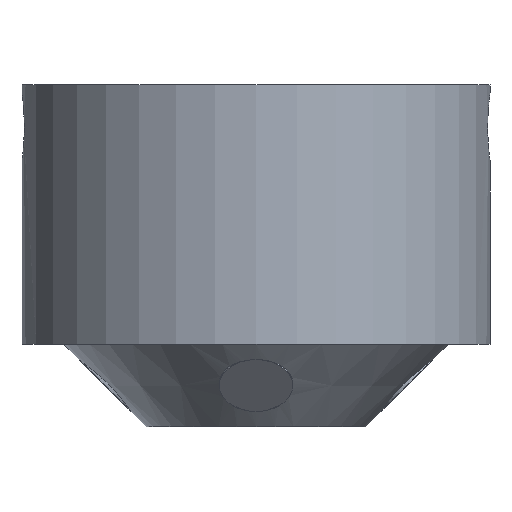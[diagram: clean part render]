
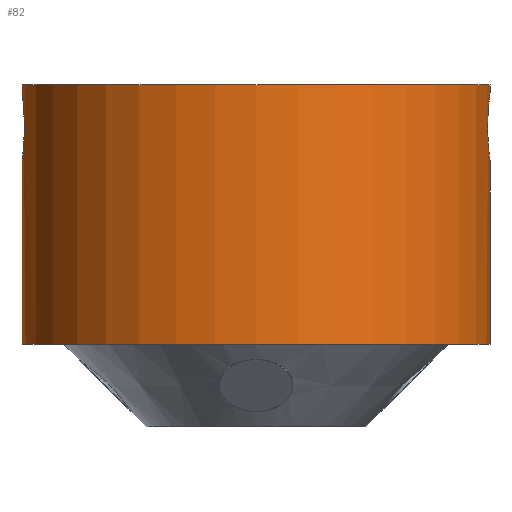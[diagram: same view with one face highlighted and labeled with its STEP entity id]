
A CAD part, front view. The second image highlights one B-rep face of the part: STEP entity #82.
In plain terms, the highlighted cylindrical face has radius 32.5 mm (diameter 65 mm), a partial arc.
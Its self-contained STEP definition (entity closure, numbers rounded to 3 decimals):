
#82 = ADVANCED_FACE( '', ( #154 ), #155, .T. );
#154 = FACE_OUTER_BOUND( '', #289, .T. );
#155 = CYLINDRICAL_SURFACE( '', #290, 32.5 );
#289 = EDGE_LOOP( '', ( #466, #467, #468, #469, #470, #471, #472, #473 ) );
#290 = AXIS2_PLACEMENT_3D( '', #474, #475, #476 );
#466 = ORIENTED_EDGE( '', *, *, #928, .F. );
#467 = ORIENTED_EDGE( '', *, *, #929, .T. );
#468 = ORIENTED_EDGE( '', *, *, #930, .F. );
#469 = ORIENTED_EDGE( '', *, *, #931, .T. );
#470 = ORIENTED_EDGE( '', *, *, #932, .F. );
#471 = ORIENTED_EDGE( '', *, *, #933, .F. );
#472 = ORIENTED_EDGE( '', *, *, #934, .F. );
#473 = ORIENTED_EDGE( '', *, *, #935, .T. );
#474 = CARTESIAN_POINT( '', ( 0., 0., 29.5 ) );
#475 = DIRECTION( '', ( 0., 0., 1. ) );
#476 = DIRECTION( '', ( 1., 0., 0. ) );
#928 = EDGE_CURVE( '', #1107, #1108, #1109, .T. );
#929 = EDGE_CURVE( '', #1107, #1110, #1111, .T. );
#930 = EDGE_CURVE( '', #1112, #1110, #1113, .T. );
#931 = EDGE_CURVE( '', #1112, #1114, #1115, .T. );
#932 = EDGE_CURVE( '', #1116, #1114, #1117, .T. );
#933 = EDGE_CURVE( '', #1118, #1116, #1119, .T. );
#934 = EDGE_CURVE( '', #1120, #1118, #1121, .T. );
#935 = EDGE_CURVE( '', #1120, #1108, #1122, .T. );
#1107 = VERTEX_POINT( '', #1625 );
#1108 = VERTEX_POINT( '', #1626 );
#1109 = LINE( '', #1627, #1628 );
#1110 = VERTEX_POINT( '', #1629 );
#1111 = CIRCLE( '', #1630, 32.5 );
#1112 = VERTEX_POINT( '', #1631 );
#1113 = LINE( '', #1632, #1633 );
#1114 = VERTEX_POINT( '', #1634 );
#1115 = B_SPLINE_CURVE_WITH_KNOTS( '', 3, ( #1635, #1636, #1637, #1638, #1639, #1640, #1641, #1642, #1643, #1644, #1645, #1646, #1647, #1648, #1649, #1650, #1651, #1652, #1653, #1654, #1655, #1656, #1657, #1658, #1659, #1660, #1661, #1662, #1663, #1664, #1665, #1666, #1667, #1668, #1669 ), .UNSPECIFIED., .F., .F., ( 4, 2, 2, 2, 2, 2, 2, 2, 3, 2, 2, 2, 2, 2, 2, 2, 4 ), ( 20.812, 21.686, 22.559, 23.433, 24.307, 25.168, 26.028, 26.888, 27.749, 28.609, 29.47, 30.33, 31.191, 32.065, 32.938, 33.812, 34.686 ), .UNSPECIFIED. );
#1116 = VERTEX_POINT( '', #1670 );
#1117 = LINE( '', #1671, #1672 );
#1118 = VERTEX_POINT( '', #1673 );
#1119 = CIRCLE( '', #1674, 32.5 );
#1120 = VERTEX_POINT( '', #1675 );
#1121 = LINE( '', #1676, #1677 );
#1122 = B_SPLINE_CURVE_WITH_KNOTS( '', 3, ( #1678, #1679, #1680, #1681, #1682, #1683, #1684, #1685, #1686, #1687, #1688, #1689, #1690, #1691, #1692, #1693, #1694, #1695, #1696, #1697, #1698, #1699, #1700, #1701, #1702, #1703, #1704, #1705, #1706, #1707, #1708, #1709, #1710, #1711 ), .UNSPECIFIED., .F., .F., ( 4, 2, 2, 2, 2, 2, 2, 2, 2, 2, 2, 2, 2, 2, 2, 2, 4 ), ( 6.937, 7.811, 8.685, 9.559, 10.433, 11.293, 12.154, 13.014, 13.874, 14.735, 15.595, 16.456, 17.316, 18.19, 19.064, 19.938, 20.812 ), .UNSPECIFIED. );
#1625 = CARTESIAN_POINT( '', ( 32.5, 0., 47.5 ) );
#1626 = CARTESIAN_POINT( '', ( 32.5, 0., 46.45 ) );
#1627 = CARTESIAN_POINT( '', ( 32.5, 0., 29.5 ) );
#1628 = VECTOR( '', #2432, 1. );
#1629 = CARTESIAN_POINT( '', ( -32.5, 0., 47.5 ) );
#1630 = AXIS2_PLACEMENT_3D( '', #2433, #2434, #2435 );
#1631 = CARTESIAN_POINT( '', ( -32.5, 0., 46.45 ) );
#1632 = CARTESIAN_POINT( '', ( -32.5, 0., 29.5 ) );
#1633 = VECTOR( '', #2436, 1. );
#1634 = CARTESIAN_POINT( '', ( -32.5, 0., 36.95 ) );
#1635 = CARTESIAN_POINT( '', ( -32.5, 0., 46.45 ) );
#1636 = CARTESIAN_POINT( '', ( -32.5, -0.291, 46.45 ) );
#1637 = CARTESIAN_POINT( '', ( -32.496, -0.591, 46.419 ) );
#1638 = CARTESIAN_POINT( '', ( -32.48, -1.184, 46.289 ) );
#1639 = CARTESIAN_POINT( '', ( -32.468, -1.477, 46.191 ) );
#1640 = CARTESIAN_POINT( '', ( -32.437, -2.035, 45.934 ) );
#1641 = CARTESIAN_POINT( '', ( -32.419, -2.301, 45.774 ) );
#1642 = CARTESIAN_POINT( '', ( -32.381, -2.788, 45.41 ) );
#1643 = CARTESIAN_POINT( '', ( -32.361, -3.01, 45.205 ) );
#1644 = CARTESIAN_POINT( '', ( -32.323, -3.396, 44.776 ) );
#1645 = CARTESIAN_POINT( '', ( -32.303, -3.574, 44.538 ) );
#1646 = CARTESIAN_POINT( '', ( -32.267, -3.886, 44.023 ) );
#1647 = CARTESIAN_POINT( '', ( -32.251, -4.02, 43.747 ) );
#1648 = CARTESIAN_POINT( '', ( -32.223, -4.234, 43.175 ) );
#1649 = CARTESIAN_POINT( '', ( -32.212, -4.315, 42.878 ) );
#1650 = CARTESIAN_POINT( '', ( -32.198, -4.42, 42.284 ) );
#1651 = CARTESIAN_POINT( '', ( -32.195, -4.445, 41.987 ) );
#1652 = CARTESIAN_POINT( '', ( -32.195, -4.445, 41.7 ) );
#1653 = CARTESIAN_POINT( '', ( -32.195, -4.445, 41.413 ) );
#1654 = CARTESIAN_POINT( '', ( -32.198, -4.42, 41.116 ) );
#1655 = CARTESIAN_POINT( '', ( -32.212, -4.315, 40.522 ) );
#1656 = CARTESIAN_POINT( '', ( -32.223, -4.234, 40.225 ) );
#1657 = CARTESIAN_POINT( '', ( -32.251, -4.02, 39.653 ) );
#1658 = CARTESIAN_POINT( '', ( -32.267, -3.886, 39.377 ) );
#1659 = CARTESIAN_POINT( '', ( -32.303, -3.574, 38.862 ) );
#1660 = CARTESIAN_POINT( '', ( -32.323, -3.396, 38.624 ) );
#1661 = CARTESIAN_POINT( '', ( -32.361, -3.01, 38.195 ) );
#1662 = CARTESIAN_POINT( '', ( -32.381, -2.788, 37.99 ) );
#1663 = CARTESIAN_POINT( '', ( -32.419, -2.301, 37.626 ) );
#1664 = CARTESIAN_POINT( '', ( -32.437, -2.035, 37.466 ) );
#1665 = CARTESIAN_POINT( '', ( -32.468, -1.477, 37.209 ) );
#1666 = CARTESIAN_POINT( '', ( -32.48, -1.184, 37.111 ) );
#1667 = CARTESIAN_POINT( '', ( -32.496, -0.591, 36.981 ) );
#1668 = CARTESIAN_POINT( '', ( -32.5, -0.291, 36.95 ) );
#1669 = CARTESIAN_POINT( '', ( -32.5, 0., 36.95 ) );
#1670 = CARTESIAN_POINT( '', ( -32.5, 0., 11.5 ) );
#1671 = CARTESIAN_POINT( '', ( -32.5, 0., 29.5 ) );
#1672 = VECTOR( '', #2437, 1. );
#1673 = CARTESIAN_POINT( '', ( 32.5, 0., 11.5 ) );
#1674 = AXIS2_PLACEMENT_3D( '', #2438, #2439, #2440 );
#1675 = CARTESIAN_POINT( '', ( 32.5, 0., 36.95 ) );
#1676 = CARTESIAN_POINT( '', ( 32.5, 0., 29.5 ) );
#1677 = VECTOR( '', #2441, 1. );
#1678 = CARTESIAN_POINT( '', ( 32.5, 0., 36.95 ) );
#1679 = CARTESIAN_POINT( '', ( 32.5, -0.291, 36.95 ) );
#1680 = CARTESIAN_POINT( '', ( 32.496, -0.591, 36.981 ) );
#1681 = CARTESIAN_POINT( '', ( 32.48, -1.184, 37.111 ) );
#1682 = CARTESIAN_POINT( '', ( 32.468, -1.477, 37.209 ) );
#1683 = CARTESIAN_POINT( '', ( 32.437, -2.035, 37.466 ) );
#1684 = CARTESIAN_POINT( '', ( 32.419, -2.301, 37.626 ) );
#1685 = CARTESIAN_POINT( '', ( 32.381, -2.788, 37.99 ) );
#1686 = CARTESIAN_POINT( '', ( 32.361, -3.01, 38.195 ) );
#1687 = CARTESIAN_POINT( '', ( 32.323, -3.396, 38.624 ) );
#1688 = CARTESIAN_POINT( '', ( 32.303, -3.574, 38.862 ) );
#1689 = CARTESIAN_POINT( '', ( 32.267, -3.886, 39.377 ) );
#1690 = CARTESIAN_POINT( '', ( 32.251, -4.02, 39.653 ) );
#1691 = CARTESIAN_POINT( '', ( 32.223, -4.234, 40.225 ) );
#1692 = CARTESIAN_POINT( '', ( 32.212, -4.315, 40.522 ) );
#1693 = CARTESIAN_POINT( '', ( 32.198, -4.42, 41.116 ) );
#1694 = CARTESIAN_POINT( '', ( 32.195, -4.445, 41.413 ) );
#1695 = CARTESIAN_POINT( '', ( 32.195, -4.445, 41.987 ) );
#1696 = CARTESIAN_POINT( '', ( 32.198, -4.42, 42.284 ) );
#1697 = CARTESIAN_POINT( '', ( 32.212, -4.315, 42.878 ) );
#1698 = CARTESIAN_POINT( '', ( 32.223, -4.234, 43.175 ) );
#1699 = CARTESIAN_POINT( '', ( 32.251, -4.02, 43.747 ) );
#1700 = CARTESIAN_POINT( '', ( 32.267, -3.886, 44.023 ) );
#1701 = CARTESIAN_POINT( '', ( 32.303, -3.574, 44.538 ) );
#1702 = CARTESIAN_POINT( '', ( 32.323, -3.396, 44.776 ) );
#1703 = CARTESIAN_POINT( '', ( 32.361, -3.01, 45.205 ) );
#1704 = CARTESIAN_POINT( '', ( 32.381, -2.788, 45.41 ) );
#1705 = CARTESIAN_POINT( '', ( 32.419, -2.301, 45.774 ) );
#1706 = CARTESIAN_POINT( '', ( 32.437, -2.035, 45.934 ) );
#1707 = CARTESIAN_POINT( '', ( 32.468, -1.477, 46.191 ) );
#1708 = CARTESIAN_POINT( '', ( 32.48, -1.184, 46.289 ) );
#1709 = CARTESIAN_POINT( '', ( 32.496, -0.591, 46.419 ) );
#1710 = CARTESIAN_POINT( '', ( 32.5, -0.291, 46.45 ) );
#1711 = CARTESIAN_POINT( '', ( 32.5, 0., 46.45 ) );
#2432 = DIRECTION( '', ( 0., 0., -1. ) );
#2433 = CARTESIAN_POINT( '', ( 0., 0., 47.5 ) );
#2434 = DIRECTION( '', ( 0., 0., -1. ) );
#2435 = DIRECTION( '', ( 1., 0., 0. ) );
#2436 = DIRECTION( '', ( 0., 0., 1. ) );
#2437 = DIRECTION( '', ( 0., 0., 1. ) );
#2438 = CARTESIAN_POINT( '', ( 0., 0., 11.5 ) );
#2439 = DIRECTION( '', ( 0., 0., -1. ) );
#2440 = DIRECTION( '', ( 1., 0., 0. ) );
#2441 = DIRECTION( '', ( 0., 0., -1. ) );
